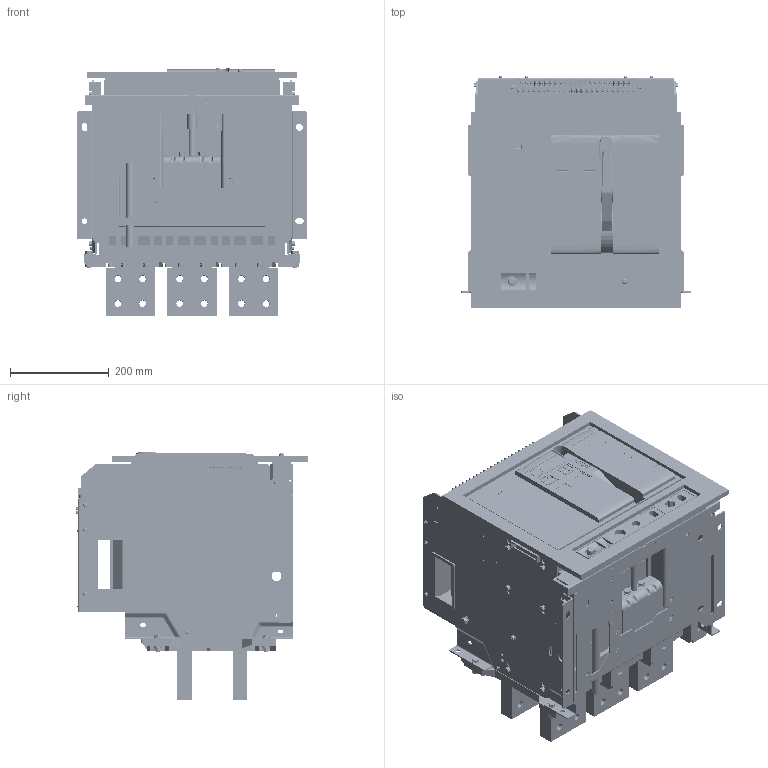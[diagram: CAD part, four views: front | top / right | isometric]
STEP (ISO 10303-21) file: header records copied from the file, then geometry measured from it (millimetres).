
FILE_DESCRIPTION (( 'STEP AP214' ), '1' );
FILE_NAME ('TENGEN_TGW1N-3200_3P_2900-3200A_D.STEP', '2026-06-02T08:48:09', ( '' ), ( '' ), 'SwSTEP 2.0', 'SolidWorks 2024', '' );
FILE_SCHEMA (( 'AUTOMOTIVE_DESIGN' ));
Length unit declared in the file: millimetre
Products named in the file (54): MANIFOLD_SOLID_BREP_1350_1_1_1_1.stp; MANIFOLD_SOLID_BREP_1354_1_1_1_1.stp; MANIFOLD_SOLID_BREP_1371_1_1_1_1.stp; MANIFOLD_SOLID_BREP_1369_1_1_1_1.stp; 111111111_2_1_1.stp; 8TZD_235_1114_1_1_1.stp; MANIFOLD_SOLID_BREP_1356_1_1_1_1.stp; MANIFOLD_SOLID_BREP_1349_1_1_1_1.stp; 8TZD_282_1271_AF0_1_1_1.stp; 8TZD_253_1322_1_1_1.stp; 3200A3P-CTSP_ASM_ASM_1_ASM_1_ASM_1.stp; MANIFOLD_SOLID_BREP_1358_1_1_1_1.stp; 8TZD_087_6008.stp; 8TZD_253_1324_1_1_1.stp; 3200A3P-CTSP_ASM_1_ASM_1_ASM_1_ASM_1.stp; MANIFOLD_SOLID_BREP_1365_1_1_1_1.stp; MANIFOLD_SOLID_BREP_1359_1_1_1_1.stp; MANIFOLD_SOLID_BREP_1361_1_1_1_1.stp; MANIFOLD_SOLID_BREP_1364_1_1_1_1.stp; 8TZD_005_6110_1_1_1.stp; 3200A3P-CTSP_ASM_1_ASM_1.stp; MANIFOLD_SOLID_BREP_1370_1_1_1_1.stp; MANIFOLD_SOLID_BREP_1368_1_1_1_1.stp; 2000SB_1_1_1.stp; 8TZD_321_1011_1_1_1.stp; TENGEN_Рамка_3200-6300_Drawer; MANIFOLD_SOLID_BREP_1375_1_1_1_1.stp; TENGEN_TGW1N-3200_3P_2900-3200A_D; TENGEN_TGW1N-3200_3P_2900-3200A_D.stp; MANIFOLD_SOLID_BREP_1376_1_1_1_1.stp; MANIFOLD_SOLID_BREP_1362_1_1_1_1.stp; 8TZD_282_1271_AF1_1_1_1.stp; MANIFOLD_SOLID_BREP_1351_1_1_1_1.stp; MANIFOLD_SOLID_BREP_1355_1_1_1_1.stp; MANIFOLD_SOLID_BREP_1353_1_1_1_1.stp; 3200ZHAOKE_ASM_ASM_1_ASM_1.stp; 8TZD_282_1272_AF0_1_1_1.stp; BOJ3B645A41J65N_ASM_1_ASM_1_ASM_ASM_1.stp; 8TZD_860_6288_1_1_1.stp; MANIFOLD_SOLID_BREP_1372_1_1_1_1.stp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
Assembly tree (56 placements, depth 7):
  TENGEN_TGW1N-3200_3P_2900-3200A_D
    TENGEN_TGW1N-3200_3P_2900-3200A_D.stp
      3200A3P-CTSP_ASM_1_ASM_1.stp
        3200A3P-CTSP_ASM_ASM_1_ASM_1_ASM_1.stp
          3200A3P-CTSP_ASM_1_ASM_1_ASM_1_ASM_1.stp
            BOJ3B645A41J65N_ASM_1_ASM_1_ASM_ASM_1.stp
              BREP_WITH_VOIDS_30_1_1_1_1.stp
              MANIFOLD_SOLID_BREP_1349_1_1_1_1.stp
              MANIFOLD_SOLID_BREP_1350_1_1_1_1.stp
              MANIFOLD_SOLID_BREP_1351_1_1_1_1.stp
              MANIFOLD_SOLID_BREP_1352_1_1_1_1.stp
              MANIFOLD_SOLID_BREP_1353_1_1_1_1.stp
              MANIFOLD_SOLID_BREP_1354_1_1_1_1.stp
              MANIFOLD_SOLID_BREP_1355_1_1_1_1.stp
              MANIFOLD_SOLID_BREP_1356_1_1_1_1.stp
              MANIFOLD_SOLID_BREP_1357_1_1_1_1.stp
              MANIFOLD_SOLID_BREP_1358_1_1_1_1.stp
              MANIFOLD_SOLID_BREP_1359_1_1_1_1.stp
              MANIFOLD_SOLID_BREP_1360_1_1_1_1.stp
              MANIFOLD_SOLID_BREP_1361_1_1_1_1.stp
              MANIFOLD_SOLID_BREP_1362_1_1_1_1.stp
              MANIFOLD_SOLID_BREP_1363_1_1_1_1.stp
              MANIFOLD_SOLID_BREP_1364_1_1_1_1.stp
              MANIFOLD_SOLID_BREP_1365_1_1_1_1.stp
              MANIFOLD_SOLID_BREP_1367_1_1_1_1.stp
              MANIFOLD_SOLID_BREP_1368_1_1_1_1.stp
              MANIFOLD_SOLID_BREP_1369_1_1_1_1.stp
              MANIFOLD_SOLID_BREP_1370_1_1_1_1.stp
              MANIFOLD_SOLID_BREP_1371_1_1_1_1.stp
              MANIFOLD_SOLID_BREP_1372_1_1_1_1.stp
              MANIFOLD_SOLID_BREP_1373_1_1_1_1.stp
              MANIFOLD_SOLID_BREP_1374_1_1_1_1.stp
              MANIFOLD_SOLID_BREP_1375_1_1_1_1.stp
              MANIFOLD_SOLID_BREP_1376_1_1_1_1.stp
        3200ZHAOKE_ASM_ASM_1_ASM_1.stp
          3200ZHAOKE_ASM_2_ASM_1_ASM_1.stp
            5TZD_005_6016_ASM_1_ASM_1_ASM_1.stp
              8TZD_005_6110_1_1_1.stp
              8TZD_253_1322_1_1_1.stp
              8TZD_282_1272_AF0_1_1_1.stp
              8TZD_235_1114_1_1_1.stp
              8TZD_321_1011_1_1_1.stp
              8TZD_282_1271_AF0_1_1_1.stp
              8TZD_282_1271_AF1_1_1_1.stp
              8TZD_253_1324_1_1_1.stp
              8TZD_253_1325_1_1_1.stp
              8TZD_860_6288_1_1_1.stp
            111111111_2_1_1.stp
            2000SB_1_1_1.stp
        GB_T9074_4-M6X80_4_1_1.stp  x4
    TENGEN_Рамка_3200-6300_Drawer
      TENGEN_Рамка_3200-6300_Drawer.stp
        8TZD_087_6008.stp
        8TZD_156_6064.stp
Bounding box: 466 x 469.5 x 502.2 mm (x, y, z)
Volume: 32654672.6 mm3; surface area: 4160016 mm2
Topology: 42 solids, 52 shells, 9954 faces, 26803 edges, 17128 vertices
Faces by surface type: plane 7195, cylinder 2036, bspline 285, torus 215, cone 145, sphere 78
Entity records: 380964 total; most frequent: CARTESIAN_POINT 134768, ORIENTED_EDGE 52560, DIRECTION 48253, EDGE_CURVE 26282, VECTOR 18737, LINE 18737, VERTEX_POINT 16960, AXIS2_PLACEMENT_3D 14758
